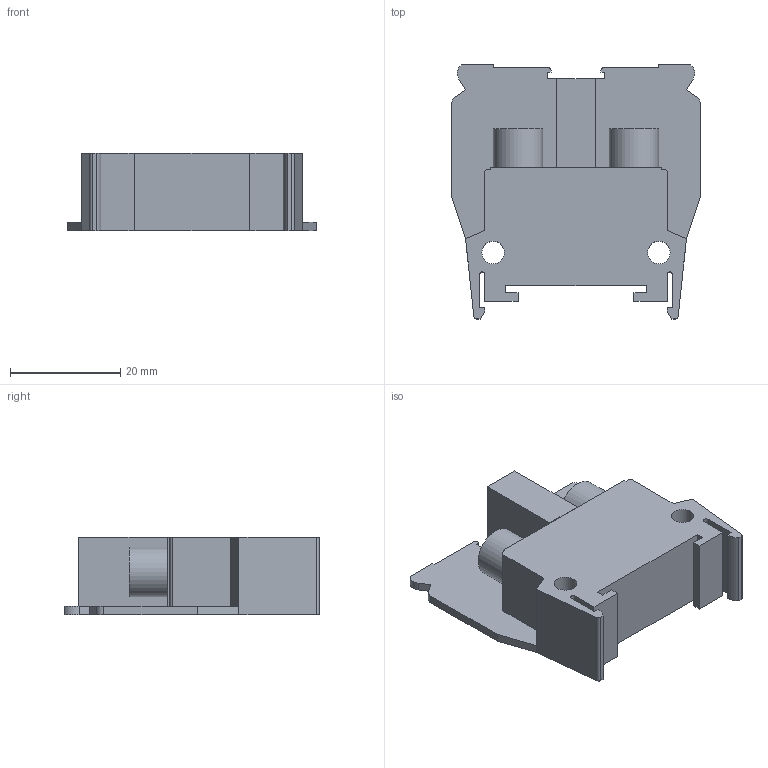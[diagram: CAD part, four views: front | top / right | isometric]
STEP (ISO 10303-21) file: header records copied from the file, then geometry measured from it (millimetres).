
FILE_DESCRIPTION(/* description */ (''),/* implementation_level */ '2;1');
FILE_NAME(/* name */ 'C:\Users\USERCADG105.FUJIDK\Desktop\TX-14.stp',/* time_stamp */ '2024-11-29T16:26:07+09:00',/* author */ ('usercadg105'),/* organization */ (''),/* preprocessor_version */ 'ST-DEVELOPER v19',/* originating_system */ 'Autodesk Inventor 2023',/* authorisation */ '');
FILE_SCHEMA (('CONFIG_CONTROL_DESIGN'));
Length unit declared in the file: millimetre
Products named in the file (1): TX-14
Bounding box: 45 x 46 x 14 mm (x, y, z)
Volume: 14559.3 mm3; surface area: 7217.3 mm2
Topology: 1 solids, 1 shells, 76 faces, 214 edges, 142 vertices
Faces by surface type: plane 58, cylinder 18
Full cylindrical faces by diameter (mm): 4.1 x2, 9 x2
Entity records: 2489 total; most frequent: CARTESIAN_POINT 433, ORIENTED_EDGE 428, DIRECTION 404, EDGE_CURVE 214, LINE 178, VECTOR 178, VERTEX_POINT 142, AXIS2_PLACEMENT_3D 113
